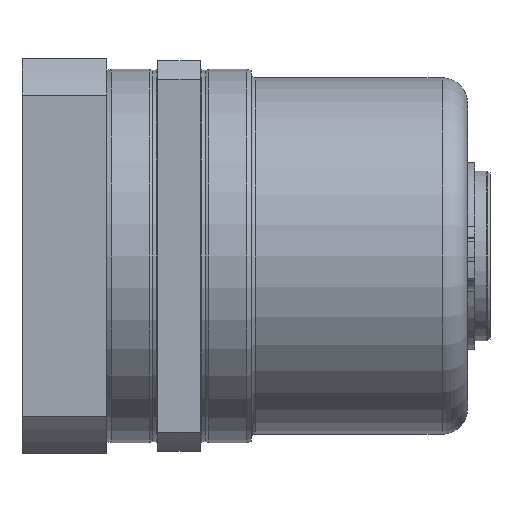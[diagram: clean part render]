
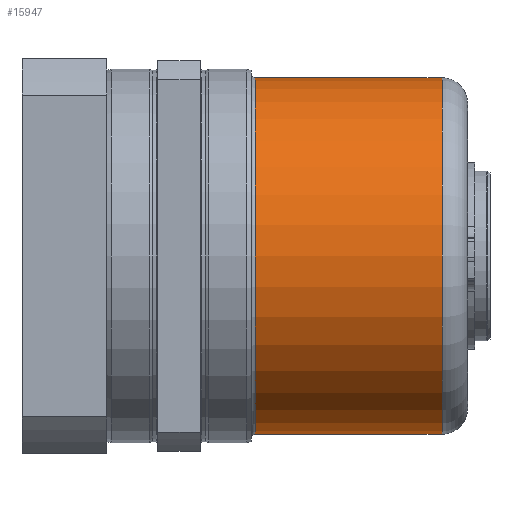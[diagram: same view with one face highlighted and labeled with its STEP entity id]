
A CAD part, front view. The second image highlights one B-rep face of the part: STEP entity #15947.
In plain terms, the highlighted cylindrical face has radius 42 mm (diameter 84 mm), a partial arc.
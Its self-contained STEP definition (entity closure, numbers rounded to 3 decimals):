
#276 = AXIS2_PLACEMENT_3D ( 'NONE', #8464, #15007, #13544 ) ;
#770 = ORIENTED_EDGE ( 'NONE', *, *, #11418, .F. ) ;
#893 = VECTOR ( 'NONE', #8071, 1000. ) ;
#1519 = ORIENTED_EDGE ( 'NONE', *, *, #15586, .T. ) ;
#1886 = CARTESIAN_POINT ( 'NONE',  ( 35., 0., 0. ) ) ;
#2742 = FACE_OUTER_BOUND ( 'NONE', #14719, .T. ) ;
#3288 = CARTESIAN_POINT ( 'NONE',  ( 35., 0., 42. ) ) ;
#3795 = ORIENTED_EDGE ( 'NONE', *, *, #13931, .T. ) ;
#5109 = ORIENTED_EDGE ( 'NONE', *, *, #7684, .T. ) ;
#5382 = CARTESIAN_POINT ( 'NONE',  ( 34., 0., -42. ) ) ;
#5948 = DIRECTION ( 'NONE',  ( 0., 0., -1. ) ) ;
#6618 = DIRECTION ( 'NONE',  ( 1., 0., 0. ) ) ;
#6728 = CYLINDRICAL_SURFACE ( 'NONE', #15543, 42. ) ;
#7201 = CIRCLE ( 'NONE', #9144, 42. ) ;
#7321 = CARTESIAN_POINT ( 'NONE',  ( 34., 0., 0. ) ) ;
#7684 = EDGE_CURVE ( 'NONE', #9177, #13218, #14627, .T. ) ;
#8071 = DIRECTION ( 'NONE',  ( 1., 0., 0. ) ) ;
#8464 = CARTESIAN_POINT ( 'NONE',  ( 79., 0., 0. ) ) ;
#8467 = DIRECTION ( 'NONE',  ( 0., 0., -1. ) ) ;
#8643 = CARTESIAN_POINT ( 'NONE',  ( 35., 0., -42. ) ) ;
#9144 = AXIS2_PLACEMENT_3D ( 'NONE', #1886, #11056, #5948 ) ;
#9177 = VERTEX_POINT ( 'NONE', #10535 ) ;
#10535 = CARTESIAN_POINT ( 'NONE',  ( 79., 0., -42. ) ) ;
#10741 = LINE ( 'NONE', #5382, #893 ) ;
#11056 = DIRECTION ( 'NONE',  ( 1., 0., 0. ) ) ;
#11293 = VERTEX_POINT ( 'NONE', #8643 ) ;
#11418 = EDGE_CURVE ( 'NONE', #14767, #13218, #12262, .T. ) ;
#12262 = LINE ( 'NONE', #13291, #13887 ) ;
#13218 = VERTEX_POINT ( 'NONE', #13712 ) ;
#13291 = CARTESIAN_POINT ( 'NONE',  ( 34., 0., 42. ) ) ;
#13544 = DIRECTION ( 'NONE',  ( 0., 0., -1. ) ) ;
#13712 = CARTESIAN_POINT ( 'NONE',  ( 79., 0., 42. ) ) ;
#13887 = VECTOR ( 'NONE', #6618, 1000. ) ;
#13931 = EDGE_CURVE ( 'NONE', #14767, #11293, #7201, .T. ) ;
#14627 = CIRCLE ( 'NONE', #276, 42. ) ;
#14719 = EDGE_LOOP ( 'NONE', ( #770, #3795, #1519, #5109 ) ) ;
#14767 = VERTEX_POINT ( 'NONE', #3288 ) ;
#15007 = DIRECTION ( 'NONE',  ( -1., 0., 0. ) ) ;
#15543 = AXIS2_PLACEMENT_3D ( 'NONE', #7321, #16454, #8467 ) ;
#15586 = EDGE_CURVE ( 'NONE', #11293, #9177, #10741, .T. ) ;
#15947 = ADVANCED_FACE ( 'NONE', ( #2742 ), #6728, .T. ) ;
#16454 = DIRECTION ( 'NONE',  ( 1., 0., 0. ) ) ;
